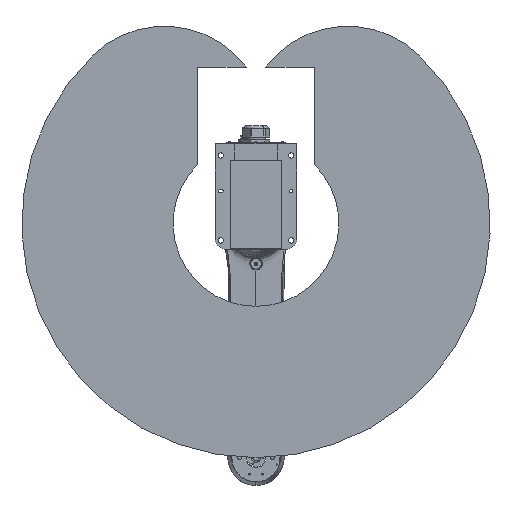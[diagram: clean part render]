
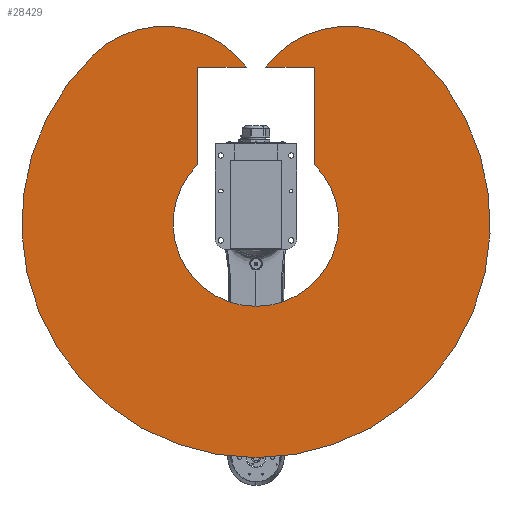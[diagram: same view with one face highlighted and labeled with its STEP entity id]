
A CAD part, front view. The second image highlights one B-rep face of the part: STEP entity #28429.
In plain terms, the highlighted planar face has unit normal (0, -1, 0).
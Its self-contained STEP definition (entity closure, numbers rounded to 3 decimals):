
#28429 = ADVANCED_FACE ( 'NONE', ( #182977 ), #183025, .F. ) ;
#42596 = EDGE_LOOP ( 'NONE', ( #130323, #130488, #130418, #130407, #130452, #130550, #130429, #130628, #130573, #130761 ) ) ;
#76741 = VERTEX_POINT ( 'NONE', #82725 ) ;
#77073 = VERTEX_POINT ( 'NONE', #82680 ) ;
#77294 = VERTEX_POINT ( 'NONE', #82727 ) ;
#77436 = VERTEX_POINT ( 'NONE', #82658 ) ;
#77471 = VERTEX_POINT ( 'NONE', #82655 ) ;
#77705 = VERTEX_POINT ( 'NONE', #82860 ) ;
#77728 = VERTEX_POINT ( 'NONE', #82904 ) ;
#77754 = VERTEX_POINT ( 'NONE', #83000 ) ;
#77757 = VERTEX_POINT ( 'NONE', #83014 ) ;
#77759 = VERTEX_POINT ( 'NONE', #82906 ) ;
#82655 = CARTESIAN_POINT ( 'NONE',  ( -16.41, 0., 267. ) ) ;
#82658 = CARTESIAN_POINT ( 'NONE',  ( 277.863, 0., 287.736 ) ) ;
#82680 = CARTESIAN_POINT ( 'NONE',  ( 0., 0., -400. ) ) ;
#82725 = CARTESIAN_POINT ( 'NONE',  ( -100., 0., 100.248 ) ) ;
#82727 = CARTESIAN_POINT ( 'NONE',  ( 100., 0., 267. ) ) ;
#82860 = CARTESIAN_POINT ( 'NONE',  ( 100., 0., 100.248 ) ) ;
#82904 = CARTESIAN_POINT ( 'NONE',  ( 0., 0., -141.597 ) ) ;
#82906 = CARTESIAN_POINT ( 'NONE',  ( 16.41, 0., 267. ) ) ;
#83000 = CARTESIAN_POINT ( 'NONE',  ( -277.863, 0., 287.736 ) ) ;
#83014 = CARTESIAN_POINT ( 'NONE',  ( -100., 0., 267. ) ) ;
#100616 = AXIS2_PLACEMENT_3D ( 'NONE', #106204, #106221, #106223 ) ;
#100618 = CIRCLE ( 'NONE', #100639, 175. ) ;
#100639 = AXIS2_PLACEMENT_3D ( 'NONE', #106182, #106160, #106184 ) ;
#100657 = CIRCLE ( 'NONE', #100616, 175. ) ;
#100773 = VECTOR ( 'NONE', #106369, 1000. ) ;
#100805 = CIRCLE ( 'NONE', #100844, 400. ) ;
#100812 = VECTOR ( 'NONE', #113996, 1000. ) ;
#100844 = AXIS2_PLACEMENT_3D ( 'NONE', #113940, #113956, #114013 ) ;
#100879 = CIRCLE ( 'NONE', #101008, 141.597 ) ;
#100898 = AXIS2_PLACEMENT_3D ( 'NONE', #114336, #114279, #114332 ) ;
#100909 = VECTOR ( 'NONE', #114029, 1000. ) ;
#100967 = AXIS2_PLACEMENT_3D ( 'NONE', #114048, #114114, #114062 ) ;
#100977 = VECTOR ( 'NONE', #114121, 1000. ) ;
#100979 = CIRCLE ( 'NONE', #100898, 141.597 ) ;
#100991 = CIRCLE ( 'NONE', #100967, 400. ) ;
#101008 = AXIS2_PLACEMENT_3D ( 'NONE', #113935, #113961, #113914 ) ;
#106160 = DIRECTION ( 'NONE',  ( 0., -1., 0. ) ) ;
#106182 = CARTESIAN_POINT ( 'NONE',  ( 156.298, 0., 161.851 ) ) ;
#106184 = DIRECTION ( 'NONE',  ( 0., 0., 1. ) ) ;
#106204 = CARTESIAN_POINT ( 'NONE',  ( -156.298, 0., 161.851 ) ) ;
#106221 = DIRECTION ( 'NONE',  ( 0., 1., 0. ) ) ;
#106223 = DIRECTION ( 'NONE',  ( 0., 0., 1. ) ) ;
#106356 = CARTESIAN_POINT ( 'NONE',  ( -100., 0., -56.132 ) ) ;
#106369 = DIRECTION ( 'NONE',  ( 0., 0., 1. ) ) ;
#106381 = LINE ( 'NONE', #106356, #100773 ) ;
#113914 = DIRECTION ( 'NONE',  ( 0., 0., 1. ) ) ;
#113928 = CARTESIAN_POINT ( 'NONE',  ( 100., 0., -56.132 ) ) ;
#113935 = CARTESIAN_POINT ( 'NONE',  ( 0., 0., 0. ) ) ;
#113940 = CARTESIAN_POINT ( 'NONE',  ( 0., 0., 0. ) ) ;
#113956 = DIRECTION ( 'NONE',  ( 0., 1., 0. ) ) ;
#113961 = DIRECTION ( 'NONE',  ( 0., 1., 0. ) ) ;
#113983 = LINE ( 'NONE', #113928, #100812 ) ;
#113996 = DIRECTION ( 'NONE',  ( 0., 0., 1. ) ) ;
#114013 = DIRECTION ( 'NONE',  ( 0., 0., 1. ) ) ;
#114029 = DIRECTION ( 'NONE',  ( 1., 0., 0. ) ) ;
#114035 = LINE ( 'NONE', #114107, #100909 ) ;
#114048 = CARTESIAN_POINT ( 'NONE',  ( 0., 0., 0. ) ) ;
#114062 = DIRECTION ( 'NONE',  ( 0., 0., 1. ) ) ;
#114089 = CARTESIAN_POINT ( 'NONE',  ( -820.723, 0., 267. ) ) ;
#114103 = LINE ( 'NONE', #114089, #100977 ) ;
#114107 = CARTESIAN_POINT ( 'NONE',  ( -820.723, 0., 267. ) ) ;
#114114 = DIRECTION ( 'NONE',  ( 0., 1., 0. ) ) ;
#114121 = DIRECTION ( 'NONE',  ( 1., 0., 0. ) ) ;
#114279 = DIRECTION ( 'NONE',  ( 0., 1., 0. ) ) ;
#114332 = DIRECTION ( 'NONE',  ( 0., 0., 1. ) ) ;
#114336 = CARTESIAN_POINT ( 'NONE',  ( 0., 0., 0. ) ) ;
#123532 = EDGE_CURVE ( 'NONE', #77436, #77759, #100618, .T. ) ;
#123540 = EDGE_CURVE ( 'NONE', #77754, #77471, #100657, .T. ) ;
#123580 = EDGE_CURVE ( 'NONE', #76741, #77757, #106381, .T. ) ;
#123607 = EDGE_CURVE ( 'NONE', #77436, #77073, #100805, .T. ) ;
#123613 = EDGE_CURVE ( 'NONE', #77705, #77294, #113983, .T. ) ;
#123617 = EDGE_CURVE ( 'NONE', #77705, #77728, #100879, .T. ) ;
#123622 = EDGE_CURVE ( 'NONE', #77757, #77471, #114035, .T. ) ;
#123627 = EDGE_CURVE ( 'NONE', #77073, #77754, #100991, .T. ) ;
#123635 = EDGE_CURVE ( 'NONE', #77759, #77294, #114103, .T. ) ;
#123646 = EDGE_CURVE ( 'NONE', #77728, #76741, #100979, .T. ) ;
#130323 = ORIENTED_EDGE ( 'NONE', *, *, #123532, .T. ) ;
#130407 = ORIENTED_EDGE ( 'NONE', *, *, #123617, .T. ) ;
#130418 = ORIENTED_EDGE ( 'NONE', *, *, #123613, .F. ) ;
#130429 = ORIENTED_EDGE ( 'NONE', *, *, #123622, .T. ) ;
#130452 = ORIENTED_EDGE ( 'NONE', *, *, #123646, .T. ) ;
#130488 = ORIENTED_EDGE ( 'NONE', *, *, #123635, .T. ) ;
#130550 = ORIENTED_EDGE ( 'NONE', *, *, #123580, .T. ) ;
#130573 = ORIENTED_EDGE ( 'NONE', *, *, #123627, .F. ) ;
#130628 = ORIENTED_EDGE ( 'NONE', *, *, #123540, .F. ) ;
#130761 = ORIENTED_EDGE ( 'NONE', *, *, #123607, .F. ) ;
#144711 = AXIS2_PLACEMENT_3D ( 'NONE', #182997, #182976, #182979 ) ;
#182976 = DIRECTION ( 'NONE',  ( 0., 1., 0. ) ) ;
#182977 = FACE_OUTER_BOUND ( 'NONE', #42596, .T. ) ;
#182979 = DIRECTION ( 'NONE',  ( 0., 0., 1. ) ) ;
#182997 = CARTESIAN_POINT ( 'NONE',  ( -820.723, 0., -56.132 ) ) ;
#183025 = PLANE ( 'NONE',  #144711 ) ;
